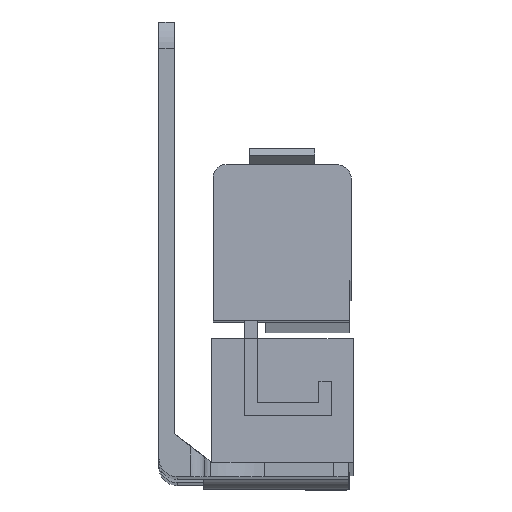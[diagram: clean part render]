
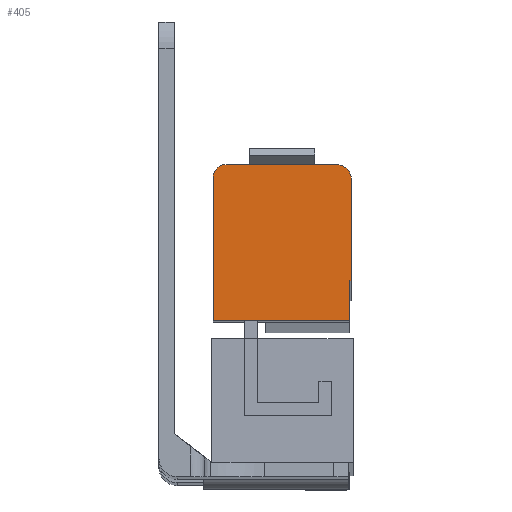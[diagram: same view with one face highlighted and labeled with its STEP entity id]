
A CAD part, front view. The second image highlights one B-rep face of the part: STEP entity #405.
In plain terms, the highlighted planar face has unit normal (0, -1, 0.005).
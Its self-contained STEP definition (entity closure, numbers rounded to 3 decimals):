
#307 = EDGE_CURVE ( 'NONE', #658, #657, #2197, .T. ) ;
#312 = EDGE_CURVE ( 'NONE', #677, #688, #2207, .T. ) ;
#314 = EDGE_CURVE ( 'NONE', #688, #658, #2212, .T. ) ;
#316 = EDGE_CURVE ( 'NONE', #657, #682, #2215, .T. ) ;
#320 = EDGE_CURVE ( 'NONE', #682, #650, #2221, .T. ) ;
#321 = EDGE_CURVE ( 'NONE', #652, #677, #2223, .T. ) ;
#324 = EDGE_CURVE ( 'NONE', #650, #683, #2229, .T. ) ;
#325 = EDGE_CURVE ( 'NONE', #683, #652, #2231, .T. ) ;
#405 = ADVANCED_FACE ( 'NONE', ( #2346 ), #1595, .T. ) ;
#650 = VERTEX_POINT ( 'NONE', #3199 ) ;
#652 = VERTEX_POINT ( 'NONE', #3201 ) ;
#657 = VERTEX_POINT ( 'NONE', #3206 ) ;
#658 = VERTEX_POINT ( 'NONE', #3207 ) ;
#677 = VERTEX_POINT ( 'NONE', #3226 ) ;
#682 = VERTEX_POINT ( 'NONE', #3231 ) ;
#683 = VERTEX_POINT ( 'NONE', #3232 ) ;
#688 = VERTEX_POINT ( 'NONE', #3237 ) ;
#1381 = CARTESIAN_POINT ( 'NONE',  ( 9.25, -22.174, -4.675 ) ) ;
#1382 = DIRECTION ( 'NONE',  ( -1., 0., 0. ) ) ;
#1391 = CARTESIAN_POINT ( 'NONE',  ( 26.5, -22.185, -6.725 ) ) ;
#1392 = DIRECTION ( 'NONE',  ( 0., 0.005, 1. ) ) ;
#1395 = CARTESIAN_POINT ( 'NONE',  ( 24.45, -22.185, -6.725 ) ) ;
#1396 = DIRECTION ( 'NONE',  ( 0., -1., 0.005 ) ) ;
#1397 = DIRECTION ( 'NONE',  ( 0., 0.005, 1. ) ) ;
#1400 = CARTESIAN_POINT ( 'NONE',  ( 9.25, -22.183, -6.425 ) ) ;
#1401 = DIRECTION ( 'NONE',  ( 0., -1., 0.005 ) ) ;
#1402 = DIRECTION ( 'NONE',  ( 0., -0.005, -1. ) ) ;
#1409 = CARTESIAN_POINT ( 'NONE',  ( 7.5, -22.183, -6.425 ) ) ;
#1410 = DIRECTION ( 'NONE',  ( 0., -0.005, -1. ) ) ;
#1411 = CARTESIAN_POINT ( 'NONE',  ( 7.5, -22.258, -20.675 ) ) ;
#1412 = DIRECTION ( 'NONE',  ( 1., 0., 0. ) ) ;
#1417 = CARTESIAN_POINT ( 'NONE',  ( 26.25, -22.287, -26.175 ) ) ;
#1418 = DIRECTION ( 'NONE',  ( 1., 0., 0. ) ) ;
#1419 = CARTESIAN_POINT ( 'NONE',  ( 26.25, -22.287, -26.175 ) ) ;
#1420 = DIRECTION ( 'NONE',  ( 0., 0.005, 1. ) ) ;
#1595 = PLANE ( 'NONE',  #1806 ) ;
#1596 = DIRECTION ( 'NONE',  ( 0., -1., 0.005 ) ) ;
#1597 = DIRECTION ( 'NONE',  ( 0., -0.005, -1. ) ) ;
#1599 = CARTESIAN_POINT ( 'NONE',  ( 9.25, -22.183, -6.425 ) ) ;
#1781 = AXIS2_PLACEMENT_3D ( 'NONE', #1395, #1396, #1397 ) ;
#1782 = AXIS2_PLACEMENT_3D ( 'NONE', #1400, #1401, #1402 ) ;
#1806 = AXIS2_PLACEMENT_3D ( 'NONE', #1599, #1596, #1597 ) ;
#2197 = LINE ( 'NONE', #1381, #2198 ) ;
#2198 = VECTOR ( 'NONE', #1382, 1000. ) ;
#2207 = LINE ( 'NONE', #1391, #2208 ) ;
#2208 = VECTOR ( 'NONE', #1392, 1000. ) ;
#2212 = CIRCLE ( 'NONE', #1781, 2.05 ) ;
#2215 = CIRCLE ( 'NONE', #1782, 1.75 ) ;
#2221 = LINE ( 'NONE', #1409, #2222 ) ;
#2222 = VECTOR ( 'NONE', #1410, 1000. ) ;
#2223 = LINE ( 'NONE', #1411, #2224 ) ;
#2224 = VECTOR ( 'NONE', #1412, 1000. ) ;
#2229 = LINE ( 'NONE', #1417, #2230 ) ;
#2230 = VECTOR ( 'NONE', #1418, 1000. ) ;
#2231 = LINE ( 'NONE', #1419, #2232 ) ;
#2232 = VECTOR ( 'NONE', #1420, 1000. ) ;
#2346 = FACE_OUTER_BOUND ( 'NONE', #3804, .T. ) ;
#3199 = CARTESIAN_POINT ( 'NONE',  ( 7.5, -22.287, -26.175 ) ) ;
#3201 = CARTESIAN_POINT ( 'NONE',  ( 26.25, -22.258, -20.675 ) ) ;
#3206 = CARTESIAN_POINT ( 'NONE',  ( 9.25, -22.174, -4.675 ) ) ;
#3207 = CARTESIAN_POINT ( 'NONE',  ( 24.45, -22.174, -4.675 ) ) ;
#3226 = CARTESIAN_POINT ( 'NONE',  ( 26.5, -22.258, -20.675 ) ) ;
#3231 = CARTESIAN_POINT ( 'NONE',  ( 7.5, -22.183, -6.425 ) ) ;
#3232 = CARTESIAN_POINT ( 'NONE',  ( 26.25, -22.287, -26.175 ) ) ;
#3237 = CARTESIAN_POINT ( 'NONE',  ( 26.5, -22.185, -6.725 ) ) ;
#3577 = ORIENTED_EDGE ( 'NONE', *, *, #316, .T. ) ;
#3579 = ORIENTED_EDGE ( 'NONE', *, *, #307, .T. ) ;
#3581 = ORIENTED_EDGE ( 'NONE', *, *, #320, .T. ) ;
#3582 = ORIENTED_EDGE ( 'NONE', *, *, #324, .T. ) ;
#3583 = ORIENTED_EDGE ( 'NONE', *, *, #325, .T. ) ;
#3584 = ORIENTED_EDGE ( 'NONE', *, *, #321, .T. ) ;
#3720 = ORIENTED_EDGE ( 'NONE', *, *, #312, .T. ) ;
#3721 = ORIENTED_EDGE ( 'NONE', *, *, #314, .T. ) ;
#3804 = EDGE_LOOP ( 'NONE', ( #3720, #3721, #3579, #3577, #3581, #3582, #3583, #3584 ) ) ;
